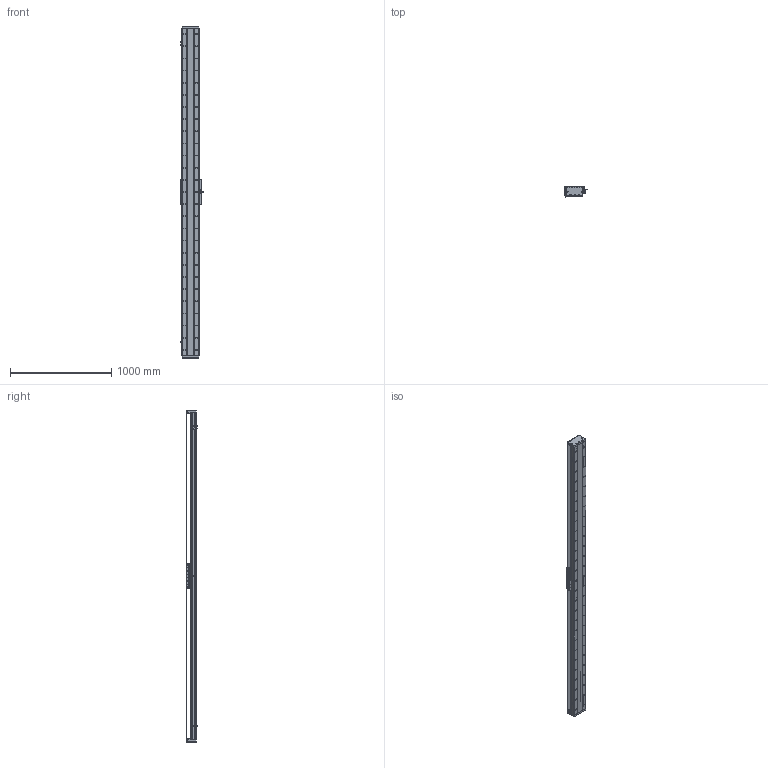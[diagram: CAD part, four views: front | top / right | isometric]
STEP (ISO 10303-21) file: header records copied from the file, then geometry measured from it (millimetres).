
FILE_DESCRIPTION (( 'STEP AP203' ), '1' );
FILE_NAME ('DA-C165-C3-T2940-C010-0.2 直线电机.STEP', '2023-06-13T08:58:19', ( '微软用户' ), ( '微软中国' ), 'SwSTEP 2.0', 'SolidWorks 2019', '' );
FILE_SCHEMA (( 'CONFIG_CONTROL_DESIGN' ));
Length unit declared in the file: millimetre
Products named in the file (18): 复件 DA165-GDYK-00 钢带压块^复件 CU165钢带组件_DA-C165-C3-T-C010-0.2-N 直线电机; 复件 CU165钢带组件^DA-C165-C3-T-C010-0.2-N 直线电机; 复件 DA165-GD-DG-H-00 端盖^复件 CU165钢带组件_DA-C165-C3-T-C010-0.2-N 直线电机; 复件 XD-U-02L 磁栅尺^DA-C165-C3-T-C010-0.2-N 直线电机_T; 葩璃 PM-T45^DA-C165-C3-T-C010-0.2-N 眻盄萇儂; 复件 DA165-GD-1860-002-00 钢带盖板^复件 CU165钢带组件_DA-C165-C3-T-C010-0.2-N 直线电机; 复件 六角薄螺母 M3^DA-C165-C3-T-C010-0.2-N 直线电机_GB_FASTENER_NUT_STNAB M3-C; 复件 DA165-GYP-00 光电感应片^DA-C165-C3-T-C010-0.2-N 直线电机; 复件 CU165 底座^IU-CU165-L 底座导轨_L3240; 复件 DA165-GDLK-00 钢带拉块^复件 CU165钢带组件_DA-C165-C3-T-C010-0.2-N 直线电机; 葩璃 CKM01-W075-TRL^DA-C165-C3-T-C010-0.2-N 眻盄萇儂; 珨极趙賑雄怢啣C3-wf; 葩璃 DA95-GT-T-00^IU-CU165-L 菁釱絳寢_T; 复件 DA95-HXJ-00 缓冲橡胶^DA-C165-C3-T-C010-0.2-N 直线电机; IU-CU165-L 菁釱絳寢; 复件 DMA-010-0.2 读数头^DA-C165-C3-T-C010-0.2-N 直线电机; 葩璃 CKM03-W075-C1C2-TP-3.0^DA-C165-C3-T-C010-0.2-N 眻盄萇儂; DA-C165-C3-T2940-C010-0.2 眻盄萇儂
Assembly tree (35 placements, depth 3):
  DA-C165-C3-T2940-C010-0.2 眻盄萇儂
    IU-CU165-L 菁釱絳寢
      复件 CU165 底座^IU-CU165-L 底座导轨_L3240
      葩璃 DA95-GT-T-00^IU-CU165-L 菁釱絳寢_T  x4
    复件 XD-U-02L 磁栅尺^DA-C165-C3-T-C010-0.2-N 直线电机_T
    葩璃 PM-T45^DA-C165-C3-T-C010-0.2-N 眻盄萇儂  x3
    葩璃 CKM01-W075-TRL^DA-C165-C3-T-C010-0.2-N 眻盄萇儂
    复件 CU165钢带组件^DA-C165-C3-T-C010-0.2-N 直线电机
      复件 DA165-GD-DG-H-00 端盖^复件 CU165钢带组件_DA-C165-C3-T-C010-0.2-N 直线电机  x2
      复件 DA165-GDYK-00 钢带压块^复件 CU165钢带组件_DA-C165-C3-T-C010-0.2-N 直线电机  x2
      复件 DA165-GD-1860-002-00 钢带盖板^复件 CU165钢带组件_DA-C165-C3-T-C010-0.2-N 直线电机
      复件 DA165-GDLK-00 钢带拉块^复件 CU165钢带组件_DA-C165-C3-T-C010-0.2-N 直线电机  x2
    复件 DA95-HXJ-00 缓冲橡胶^DA-C165-C3-T-C010-0.2-N 直线电机  x4
    复件 DA165-GYP-00 光电感应片^DA-C165-C3-T-C010-0.2-N 直线电机
    复件 DMA-010-0.2 读数头^DA-C165-C3-T-C010-0.2-N 直线电机
    葩璃 CKM03-W075-C1C2-TP-3.0^DA-C165-C3-T-C010-0.2-N 眻盄萇儂
    复件 六角薄螺母 M3^DA-C165-C3-T-C010-0.2-N 直线电机_GB_FASTENER_NUT_STNAB M3-C  x8
    珨极趙賑雄怢啣C3-wf
Bounding box: 233 x 111.45 x 3280 mm (x, y, z)
Volume: 18265562.3 mm3; surface area: 5490143.5 mm2
Topology: 72 solids, 122 shells, 4678 faces, 13659 edges, 8676 vertices
Faces by surface type: cylinder 2816, plane 1236, cone 576, torus 46, sphere 4
Entity records: 159515 total; most frequent: CARTESIAN_POINT 44487, ORIENTED_EDGE 24070, DIRECTION 23181, EDGE_CURVE 12035, AXIS2_PLACEMENT_3D 8936, VERTEX_POINT 7864, EDGE_LOOP 5557, LINE 5309
